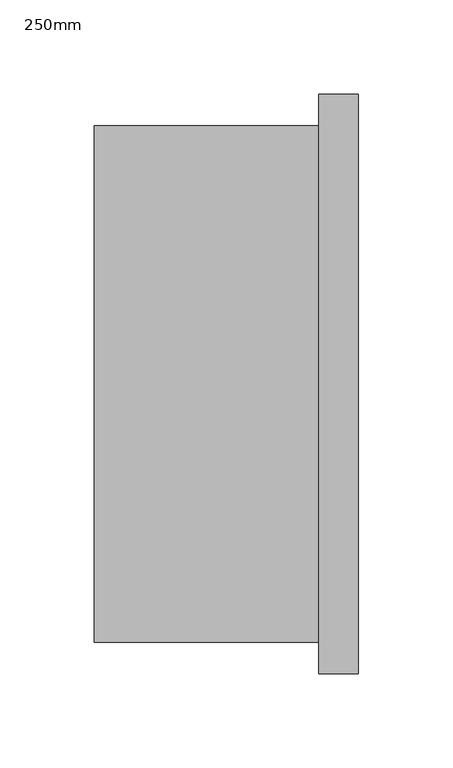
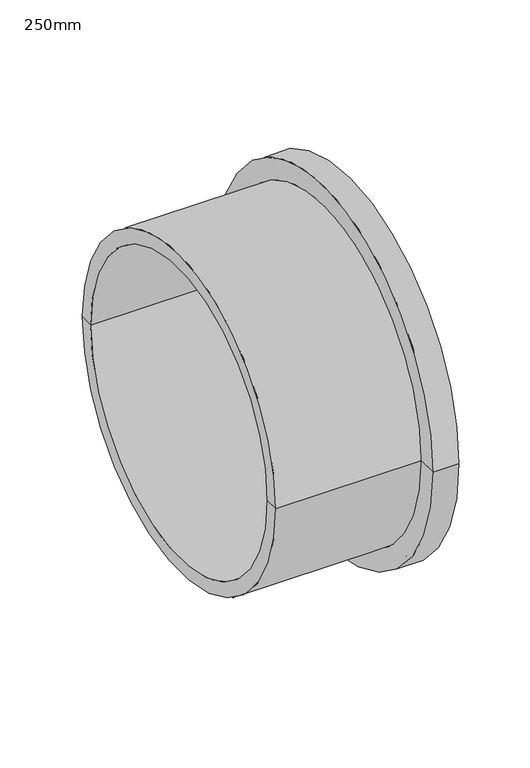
"""IFC4 building model written with IfcOpenShell, lengths in millimetres: pipe fitting geometry, Durapipe_PipeFitting_PVC_StubFlange : 250mm."""

import ifcopenshell
import ifcopenshell.guid

model = None  # the IFC model being written
_history = None  # IfcOwnerHistory: only IFC2X3 demands one
_inside = {}  # id of a spatial element -> (the spatial element, [elements in it])
_under = {}  # id of a project, library or spatial element -> (it, [spatial elements below it])
_declared = {}  # id of a project -> (the project, [libraries it declares])
_typed = {}  # id of a type object -> (the type object, [elements of that type])
_made_of = {}  # id of a material, layer set ... -> (it, [elements and type objects made of it])


def new_model(schema):
    """Start an empty IFC model of exactly this schema.

    Asked for "IFC4X3", IfcOpenShell would pick the latest addendum, in which some entities
    have other attributes; the version numbers below select the first issue.
    IFC2X3 requires an IfcOwnerHistory on every rooted entity: one is made here for all.
    """
    global model, _history
    if schema == "IFC4X3":
        model = ifcopenshell.file(schema_version=(4, 3, 0, 0))
    else:
        model = ifcopenshell.file(schema=schema)
    _inside.clear()
    _under.clear()
    _declared.clear()
    _typed.clear()
    _made_of.clear()
    _history = None
    if model.schema == "IFC2X3":
        org = make("IfcOrganization", Name="unknown")
        user = make(
            "IfcPersonAndOrganization",
            ThePerson=make("IfcPerson", FamilyName="unknown"),
            TheOrganization=org,
        )
        app = make(
            "IfcApplication",
            ApplicationDeveloper=org,
            Version="unknown",
            ApplicationFullName="unknown",
            ApplicationIdentifier="unknown",
        )
        _history = make(
            "IfcOwnerHistory",
            OwningUser=user,
            OwningApplication=app,
            ChangeAction="ADDED",
            CreationDate=0,
        )
    return model


def make(cls, **values):
    """One entity of the class cls with the attributes given. An attribute that is None is left unset."""
    return model.create_entity(
        cls, **{name: value for name, value in values.items() if value is not None}
    )


def rooted(cls, **values):
    """An entity with a GlobalId (a new one), such as an element, a storey or a relation."""
    return make(cls, GlobalId=ifcopenshell.guid.new(), OwnerHistory=_history, **values)


def si_unit(unit_type, name, prefix=None):
    """IfcSIUnit, for example si_unit("LENGTHUNIT", "METRE", prefix="MILLI")."""
    return make("IfcSIUnit", UnitType=unit_type, Prefix=prefix, Name=name)


def assignment(units):
    """IfcUnitAssignment: the units of a project."""
    return None if units is None else make("IfcUnitAssignment", Units=units)


def point(xyz):
    """IfcCartesianPoint."""
    return None if xyz is None else make("IfcCartesianPoint", Coordinates=xyz)


def direction(xyz):
    """IfcDirection."""
    return None if xyz is None else make("IfcDirection", DirectionRatios=xyz)


def frame(location, z_axis=None, x_axis=None):
    """IfcAxis2Placement3D, a coordinate frame: its origin and axes. An axis left out is left unset."""
    return make(
        "IfcAxis2Placement3D",
        Location=point(location),
        Axis=direction(z_axis),
        RefDirection=direction(x_axis),
    )


def origin():
    """The frame at (0, 0, 0) with its axes left unset."""
    return frame((0.0, 0.0, 0.0))


def place(relative_to, where):
    """IfcLocalPlacement: puts the frame where relative to a parent placement (None: the world)."""
    return make(
        "IfcLocalPlacement", PlacementRelTo=relative_to, RelativePlacement=where
    )


def context(
    kind, dimensions, precision=None, world=None, true_north=None, identifier=None
):
    """IfcGeometricRepresentationContext, for example the 3D "Model" context."""
    return make(
        "IfcGeometricRepresentationContext",
        ContextIdentifier=identifier,
        ContextType=kind,
        CoordinateSpaceDimension=dimensions,
        Precision=precision,
        WorldCoordinateSystem=world,
        TrueNorth=true_north,
    )


def project(units=None, contexts=None):
    """IfcProject with its units and contexts."""
    return rooted(
        "IfcProject",
        Name="project",
        RepresentationContexts=contexts,
        UnitsInContext=assignment(units),
    )


def spatial(cls, under=None, at=None, **own):
    """A site, building, storey or space (cls), placed at a placement, below another one or the project."""
    s = rooted(cls, ObjectPlacement=at, **own)
    if under is not None:
        _under.setdefault(under.id(), (under, []))[1].append(s)
    return s


def polyline(points):
    """IfcPolyline through the points."""
    return make("IfcPolyline", Points=[point(p) for p in points])


def circle_curve(where, radius):
    """IfcCircle in the frame where."""
    return make("IfcCircle", Position=where, Radius=radius)


def shape(context_of_items, identifier, shape_type, items):
    """IfcShapeRepresentation: the items that make up one representation, for example the "Body"."""
    return make(
        "IfcShapeRepresentation",
        ContextOfItems=context_of_items,
        RepresentationIdentifier=identifier,
        RepresentationType=shape_type,
        Items=items,
    )


def source(mapping_origin, context_of_items, identifier, shape_type, items):
    """IfcRepresentationMap: a shape defined once, which mapped items show again and again."""
    return make(
        "IfcRepresentationMap",
        MappingOrigin=mapping_origin,
        MappedRepresentation=shape(context_of_items, identifier, shape_type, items),
    )


def transform(
    local_origin,
    x_axis=None,
    y_axis=None,
    z_axis=None,
    scale=None,
    scale2=None,
    scale3=None,
    uniform=True,
):
    """IfcCartesianTransformationOperator3D, or its non-uniform kind. x_axis, y_axis, z_axis: its Axis1, 2, 3."""
    if uniform:
        return make(
            "IfcCartesianTransformationOperator3D",
            Axis1=direction(x_axis),
            Axis2=direction(y_axis),
            LocalOrigin=point(local_origin),
            Scale=scale,
            Axis3=direction(z_axis),
        )
    return make(
        "IfcCartesianTransformationOperator3DnonUniform",
        Axis1=direction(x_axis),
        Axis2=direction(y_axis),
        LocalOrigin=point(local_origin),
        Scale=scale,
        Axis3=direction(z_axis),
        Scale2=scale2,
        Scale3=scale3,
    )


def mapped(mapping_source, mapping_target):
    """IfcMappedItem: shows the shape of a source again, moved by a transform."""
    return make(
        "IfcMappedItem", MappingSource=mapping_source, MappingTarget=mapping_target
    )


def made_of(thing, what):
    """Note that an element or type object is made of a material, layer set ...; save() writes the relation."""
    if what is not None:
        _made_of.setdefault(what.id(), (what, []))[1].append(thing)
    return thing


def element(
    cls,
    number,
    at=None,
    inside=None,
    cuts=None,
    type_object=None,
    material=None,
    context=None,
    identifier="Body",
    shape_type=None,
    held_by="IfcProductDefinitionShape",
    body=None,
    shapes=None,
    **own,
):
    """One element of the class cls, such as IfcWall. Its Tag is "e" and its number.

    at: its placement. inside: the storey or other place that contains it. cuts: it is an
    opening in that element (IfcRelVoidsElement). A single representation is given by context,
    identifier, shape_type and body (its items); several are given by shapes. held_by: the class
    of the entity that holds the representations. save() writes the other relations.
    """
    e = rooted(cls, Tag="e%d" % number, ObjectPlacement=at, **own)
    if body is not None:
        shapes = [shape(context, identifier, shape_type, body)]
    if shapes is not None:
        e.Representation = make(held_by, Representations=shapes)
    if inside is not None:
        _inside.setdefault(inside.id(), (inside, []))[1].append(e)
    if cuts is not None:
        rooted(
            "IfcRelVoidsElement", RelatingBuildingElement=cuts, RelatedOpeningElement=e
        )
    if type_object is not None:
        _typed.setdefault(type_object.id(), (type_object, []))[1].append(e)
    return made_of(e, material)


def aggregate(whole, parts):
    """IfcRelAggregates: a whole, such as a stair, and the parts it consists of."""
    return rooted("IfcRelAggregates", RelatingObject=whole, RelatedObjects=parts)


def save(model, path):
    """Write the relations noted so far, then the file.

    IfcRelAggregates (storeys below a building ...), IfcRelContainedInSpatialStructure (elements
    in a storey), IfcRelDefinesByType, IfcRelAssociatesMaterial and IfcRelDeclares: one each for
    every whole, place, type object, material and project.
    """
    for whole, parts in _under.values():
        aggregate(whole, parts)
    for where, things in _inside.values():
        rooted(
            "IfcRelContainedInSpatialStructure",
            RelatedElements=things,
            RelatingStructure=where,
        )
    for kind, things in _typed.values():
        rooted("IfcRelDefinesByType", RelatedObjects=things, RelatingType=kind)
    for what, things in _made_of.values():
        rooted("IfcRelAssociatesMaterial", RelatedObjects=things, RelatingMaterial=what)
    for by, libraries in _declared.values():
        rooted("IfcRelDeclares", RelatingContext=by, RelatedDefinitions=libraries)
    model.write(path)


def plane_surface(at):
    """IfcPlane: the flat surface through the origin of the frame at, square to its z axis."""
    return make("IfcPlane", Position=at)


def cylinder_surface(at, radius):
    """IfcCylindricalSurface: all points at the distance radius from the z axis of the frame at."""
    return make("IfcCylindricalSurface", Position=at, Radius=radius)


def revolved_surface(curve, axis_point, axis_direction):
    """IfcSurfaceOfRevolution: the curve turned about the line through axis_point along axis_direction."""
    return make(
        "IfcSurfaceOfRevolution",
        SweptCurve=make("IfcArbitraryOpenProfileDef", ProfileType="CURVE", Curve=curve),
        AxisPosition=make("IfcAxis1Placement", Location=point(axis_point), Axis=direction(axis_direction)),
    )


def advanced_brep(points, edges, surfaces, faces):
    """IfcAdvancedBrep: a solid bounded by faces that lie on surfaces and meet in shared edges.

    An edge is (start, end): straight between two places in points (the first is 0);
    or (start, end, curve); or (start, end, curve, False) where it runs against its curve.
    A face is (place in surfaces, loops), or (place, loops, False) where it looks against
    its surface's normal. A loop lists edges by number (the first is 1), with a minus sign
    where the edge is run from its end to its start. The first loop is the outer one.
    """
    corners = [point(p) for p in points]
    vertices = [make("IfcVertexPoint", VertexGeometry=c) for c in corners]
    made = []
    for start, end, *more in edges:
        made.append(
            make(
                "IfcEdgeCurve",
                EdgeStart=vertices[start],
                EdgeEnd=vertices[end],
                EdgeGeometry=more[0] if more else make("IfcPolyline", Points=[corners[start], corners[end]]),
                SameSense=more[1] if len(more) > 1 else True,
            )
        )
    hull = []
    for where, loops, *sense in faces:
        bounds = []
        for j, loop in enumerate(loops):
            ring = [make("IfcOrientedEdge", EdgeElement=made[abs(k) - 1], Orientation=k > 0) for k in loop]
            bounds.append(
                make(
                    "IfcFaceOuterBound" if j == 0 else "IfcFaceBound",
                    Bound=make("IfcEdgeLoop", EdgeList=ring),
                    Orientation=True,
                )
            )
        hull.append(make("IfcAdvancedFace", Bounds=bounds, FaceSurface=surfaces[where], SameSense=sense[0] if sense else True))
    return make("IfcAdvancedBrep", Outer=make("IfcClosedShell", CfsFaces=hull))


def pipe_fitting_250mm_2ba4ded5(model_context):
    return source(origin(), model_context, "Body", "AdvancedBrep", [
        advanced_brep(
        [(70.0, -153.5, 0.0), (70.0, 153.5, 0.0), (70.0, 150.5, 0.0), (70.0, -150.5, 0.0), (70.0, 112.5, 0.0), (70.0, -112.5, 0.0), (70.0, -146.7720779, 0.0), (70.0, 146.7720779, 0.0), (49.0, -153.5, 0.0), (49.0, 153.5, 0.0), (49.0, -136.75, 0.0), (49.0, 136.75, 0.0), (-70.0, -136.75, 0.0), (-70.0, 136.75, 0.0), (-70.0, -125.0, 0.0), (-70.0, 125.0, 0.0), (61.0, 112.5, 0.0), (61.0, -112.5, 0.0), (61.0, -125.0, 0.0), (61.0, 125.0, 0.0), (70.0, 148.0147186, 0.0), (68.5, 147.3933983, 0.0), (68.5, -147.3933983, 0.0), (70.0, -148.0147186, 0.0), (68.5, -148.636039, 0.0), (68.5, 148.636039, 0.0), (70.0, -149.2573593, 0.0), (70.0, 149.2573593, 0.0), (68.5, -149.8786797, 0.0), (68.5, 149.8786797, 0.0)],
        [
            (0, 1, circle_curve(frame((70.0, 0.0, 0.0), z_axis=(1.0, 0.0, 0.0), x_axis=(0.0, 1.0, 0.0)), 153.5)),
            (1, 2),
            (2, 3, circle_curve(frame((70.0, 0.0, 0.0), z_axis=(-1.0, 0.0, 0.0), x_axis=(0.0, -1.0, 0.0)), 150.5)),
            (3, 0),
            (4, 5, circle_curve(frame((70.0, 0.0, 0.0), z_axis=(-1.0, 0.0, 0.0), x_axis=(0.0, 1.0, 0.0)), 112.5)),
            (5, 6),
            (6, 7, circle_curve(frame((70.0, 0.0, 0.0), z_axis=(1.0, 0.0, 0.0), x_axis=(0.0, -1.0, 0.0)), 146.7720779)),
            (7, 4),
            (1, 0, circle_curve(frame((70.0, 0.0, 0.0), z_axis=(1.0, 0.0, 0.0), x_axis=(0.0, 1.0, 0.0)), 153.5)),
            (3, 2, circle_curve(frame((70.0, 0.0, 0.0), z_axis=(-1.0, 0.0, 0.0), x_axis=(0.0, 1.0, 0.0)), 150.5)),
            (5, 4, circle_curve(frame((70.0, 0.0, 0.0), z_axis=(-1.0, 0.0, 0.0), x_axis=(0.0, 1.0, 0.0)), 112.5)),
            (7, 6, circle_curve(frame((70.0, 0.0, 0.0), z_axis=(1.0, 0.0, 0.0), x_axis=(0.0, 1.0, 0.0)), 146.7720779)),
            (0, 8),
            (8, 9, circle_curve(frame((49.0, 0.0, 0.0), z_axis=(1.0, 0.0, 0.0), x_axis=(0.0, 1.0, 0.0)), 153.5)),
            (9, 1),
            (9, 8, circle_curve(frame((49.0, 0.0, 0.0), z_axis=(1.0, 0.0, 0.0), x_axis=(0.0, 1.0, 0.0)), 153.5)),
            (8, 10),
            (10, 11, circle_curve(frame((49.0, 0.0, 0.0), z_axis=(1.0, 0.0, 0.0), x_axis=(0.0, 1.0, 0.0)), 136.75)),
            (11, 9),
            (11, 10, circle_curve(frame((49.0, 0.0, 0.0), z_axis=(1.0, 0.0, 0.0), x_axis=(0.0, 1.0, 0.0)), 136.75)),
            (10, 12),
            (12, 13, circle_curve(frame((-70.0, 0.0, 0.0), z_axis=(1.0, 0.0, 0.0), x_axis=(0.0, 1.0, 0.0)), 136.75)),
            (13, 11),
            (13, 12, circle_curve(frame((-70.0, 0.0, 0.0), z_axis=(1.0, 0.0, 0.0), x_axis=(0.0, 1.0, 0.0)), 136.75)),
            (12, 14),
            (14, 15, circle_curve(frame((-70.0, 0.0, 0.0), z_axis=(1.0, 0.0, 0.0), x_axis=(0.0, 1.0, 0.0)), 125.0)),
            (15, 13),
            (15, 14, circle_curve(frame((-70.0, 0.0, 0.0), z_axis=(1.0, 0.0, 0.0), x_axis=(0.0, 1.0, 0.0)), 125.0)),
            (4, 16),
            (16, 17, circle_curve(frame((61.0, 0.0, 0.0), z_axis=(-1.0, 0.0, 0.0), x_axis=(0.0, 1.0, 0.0)), 112.5)),
            (17, 5),
            (17, 16, circle_curve(frame((61.0, 0.0, 0.0), z_axis=(-1.0, 0.0, 0.0), x_axis=(0.0, 1.0, 0.0)), 112.5)),
            (14, 18),
            (18, 19, circle_curve(frame((61.0, 0.0, 0.0), z_axis=(1.0, 0.0, 0.0), x_axis=(0.0, 1.0, 0.0)), 125.0)),
            (19, 15),
            (19, 18, circle_curve(frame((61.0, 0.0, 0.0), z_axis=(1.0, 0.0, 0.0), x_axis=(0.0, 1.0, 0.0)), 125.0)),
            (18, 17),
            (16, 19),
            (20, 21),
            (21, 22, circle_curve(frame((68.5, 0.0, 0.0), z_axis=(-1.0, 0.0, 0.0), x_axis=(0.0, -1.0, 0.0)), 147.3933983)),
            (22, 23),
            (23, 20, circle_curve(frame((70.0, 0.0, 0.0), z_axis=(1.0, 0.0, 0.0), x_axis=(0.0, -1.0, 0.0)), 148.0147186)),
            (23, 24),
            (24, 25, circle_curve(frame((68.5, 0.0, 0.0), z_axis=(1.0, 0.0, 0.0), x_axis=(0.0, -1.0, 0.0)), 148.636039)),
            (25, 20),
            (24, 26),
            (26, 27, circle_curve(frame((70.0, 0.0, 0.0), z_axis=(1.0, 0.0, 0.0), x_axis=(0.0, -1.0, 0.0)), 149.2573593)),
            (27, 25),
            (26, 28),
            (28, 29, circle_curve(frame((68.5, 0.0, 0.0), z_axis=(1.0, 0.0, 0.0), x_axis=(0.0, -1.0, 0.0)), 149.8786797)),
            (29, 27),
            (28, 3),
            (2, 29),
            (21, 7),
            (6, 22),
            (20, 23, circle_curve(frame((70.0, 0.0, 0.0), z_axis=(1.0, 0.0, 0.0), x_axis=(0.0, 1.0, 0.0)), 148.0147186)),
            (22, 21, circle_curve(frame((68.5, 0.0, 0.0), z_axis=(-1.0, 0.0, 0.0), x_axis=(0.0, 1.0, 0.0)), 147.3933983)),
            (25, 24, circle_curve(frame((68.5, 0.0, 0.0), z_axis=(1.0, 0.0, 0.0), x_axis=(0.0, 1.0, 0.0)), 148.636039)),
            (27, 26, circle_curve(frame((70.0, 0.0, 0.0), z_axis=(1.0, 0.0, 0.0), x_axis=(0.0, 1.0, 0.0)), 149.2573593)),
            (29, 28, circle_curve(frame((68.5, 0.0, 0.0), z_axis=(1.0, 0.0, 0.0), x_axis=(0.0, 1.0, 0.0)), 149.8786797)),
        ],
        [
            plane_surface(frame((70.0, 0.0, 0.0), z_axis=(1.0, 0.0, 0.0), x_axis=(0.0, 1.0, 0.0))),
            cylinder_surface(frame((73.1035546, 0.0, 0.0), z_axis=(-1.0, 0.0, 0.0), x_axis=(0.0, 1.0, 0.0)), 153.5),
            plane_surface(frame((49.0, 0.0, 0.0), z_axis=(-1.0, 0.0, 0.0), x_axis=(0.0, 1.0, 0.0))),
            cylinder_surface(frame((73.1035546, 0.0, 0.0), z_axis=(-1.0, 0.0, 0.0), x_axis=(0.0, 1.0, 0.0)), 136.75),
            plane_surface(frame((-70.0, 0.0, 0.0), z_axis=(-1.0, 0.0, 0.0), x_axis=(0.0, 1.0, 0.0))),
            revolved_surface(polyline([(61.0, 112.5, 0.0), (70.0, 112.5, 0.0)]), (73.1035546, 0.0, 0.0), (-1.0, 0.0, 0.0)),
            revolved_surface(polyline([(-70.0, 125.0, 0.0), (61.000000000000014, 125.0, 0.0)]), (-71.8250714, 0.0, 0.0), (-1.0, 0.0, 0.0)),
            plane_surface(frame((61.0, 0.0, 0.0), z_axis=(-1.0, 0.0, 0.0), x_axis=(0.0, 1.0, 0.0))),
            revolved_surface(polyline([(70.0, -148.0147186, 0.0), (68.5, -147.3933983, 0.0)]), (70.0, 0.0, 0.0), (1.0, 0.0, 0.0)),
            revolved_surface(polyline([(68.5, -148.636039, 0.0), (70.0, -148.0147186, 0.0)]), (70.0, 0.0, 0.0), (1.0, 0.0, 0.0)),
            revolved_surface(polyline([(70.0, -149.2573593, 0.0), (68.5, -148.636039, 0.0)]), (70.0, 0.0, 0.0), (1.0, 0.0, 0.0)),
            revolved_surface(polyline([(68.5, -149.8786797, 0.0), (70.0, -149.2573593, 0.0)]), (70.0, 0.0, 0.0), (1.0, 0.0, 0.0)),
            revolved_surface(polyline([(70.0, -150.5, 0.0), (68.5, -149.8786797, 0.0)]), (70.0, 0.0, 0.0), (1.0, 0.0, 0.0)),
            revolved_surface(polyline([(68.5, -147.3933983, 0.0), (70.0, -146.7720779, 0.0)]), (70.0, 0.0, 0.0), (1.0, 0.0, 0.0)),
            revolved_surface(polyline([(70.0, 148.0147186, 0.0), (68.5, 147.3933983, 0.0)]), (70.0, 0.0, 0.0), (1.0, 0.0, 0.0)),
            revolved_surface(polyline([(68.5, 148.636039, 0.0), (70.0, 148.0147186, 0.0)]), (70.0, 0.0, 0.0), (1.0, 0.0, 0.0)),
            revolved_surface(polyline([(70.0, 149.2573593, 0.0), (68.5, 148.636039, 0.0)]), (70.0, 0.0, 0.0), (1.0, 0.0, 0.0)),
            revolved_surface(polyline([(68.5, 149.8786797, 0.0), (70.0, 149.2573593, 0.0)]), (70.0, 0.0, 0.0), (1.0, 0.0, 0.0)),
            revolved_surface(polyline([(70.0, 150.5, 0.0), (68.5, 149.8786797, 0.0)]), (70.0, 0.0, 0.0), (1.0, 0.0, 0.0)),
            revolved_surface(polyline([(68.5, 147.3933983, 0.0), (70.0, 146.7720779, 0.0)]), (70.0, 0.0, 0.0), (1.0, 0.0, 0.0)),
        ],
        [
            (0, [[1, 2, 3, 4]]),
            (0, [[5, 6, 7, 8]]),
            (0, [[9, -4, 10, -2]]),
            (0, [[11, -8, 12, -6]]),
            (1, [[-1, 13, 14, 15]]),
            (1, [[-9, -15, 16, -13]]),
            (2, [[-14, 17, 18, 19]]),
            (2, [[-16, -19, 20, -17]]),
            (3, [[-18, 21, 22, 23]]),
            (3, [[-20, -23, 24, -21]]),
            (4, [[-22, 25, 26, 27]]),
            (4, [[-24, -27, 28, -25]]),
            (5, [[-5, 29, 30, 31]]),
            (5, [[-11, -31, 32, -29]]),
            (6, [[33, 34, 35, -26]]),
            (6, [[-33, -28, -35, 36]]),
            (7, [[-34, 37, -30, 38]]),
            (7, [[-36, -38, -32, -37]]),
            (8, [[39, 40, 41, 42]]),
            (9, [[-42, 43, 44, 45]]),
            (10, [[-44, 46, 47, 48]]),
            (11, [[-47, 49, 50, 51]]),
            (12, [[-50, 52, -3, 53]]),
            (13, [[-40, 54, -7, 55]]),
            (14, [[-39, 56, -41, 57]]),
            (15, [[-45, 58, -43, -56]]),
            (16, [[-48, 59, -46, -58]]),
            (17, [[-51, 60, -49, -59]]),
            (18, [[-53, -10, -52, -60]]),
            (19, [[-54, -57, -55, -12]]),
        ],
    ),
    ])


if __name__ == "__main__":
    model = new_model("IFC4")
    model_context = context("Model", 3, world=origin())
    ifc_project = project(units=[si_unit("LENGTHUNIT", "METRE", prefix="MILLI")], contexts=[model_context])
    site = spatial("IfcSite", under=ifc_project)
    building = spatial("IfcBuilding", under=site)
    placement = place(None, origin())
    pipe_fitting_250mm_shape = pipe_fitting_250mm_2ba4ded5(model_context)
    element("IfcPipeFitting", 1, ObjectType="Durapipe_PipeFitting_PVC_StubFlange : 250mm", at=placement, inside=building, context=model_context, shape_type="MappedRepresentation", body=[
        mapped(pipe_fitting_250mm_shape, transform((0.0, 0.0, 0.0), x_axis=(1.0, 0.0, 0.0), y_axis=(0.0, 1.0, 0.0), z_axis=(0.0, 0.0, 1.0))),
    ])
    save(model, "model.ifc")
